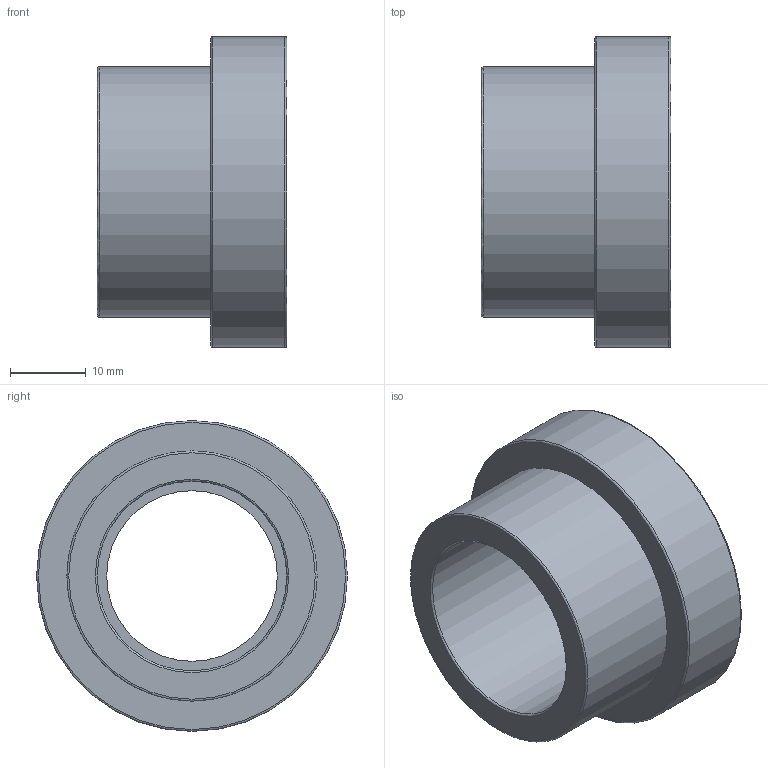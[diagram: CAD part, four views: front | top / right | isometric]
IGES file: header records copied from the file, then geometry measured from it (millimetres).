
Global section: file name: 055000025.ipt; native system: Autodesk Inventor 2015; preprocessor: unknown; author: KIM; date: 20171207.165703; units: millimetre
Bounding box: 25 x 41 x 41 mm (x, y, z)
Volume: 13482.5 mm3; surface area: 7105.7 mm2
Topology: 1 solids, 1 shells, 21 faces, 60 edges, 45 vertices
Faces by surface type: revolution 12, plane 6, cylinder 3
Full cylindrical faces by diameter (mm): 28.975 x1, 33 x1, 41 x1
